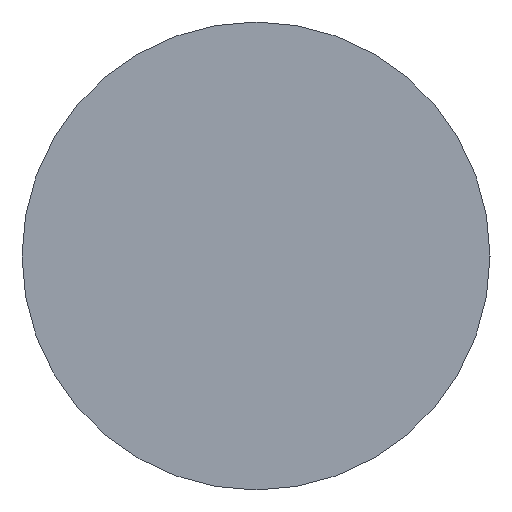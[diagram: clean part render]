
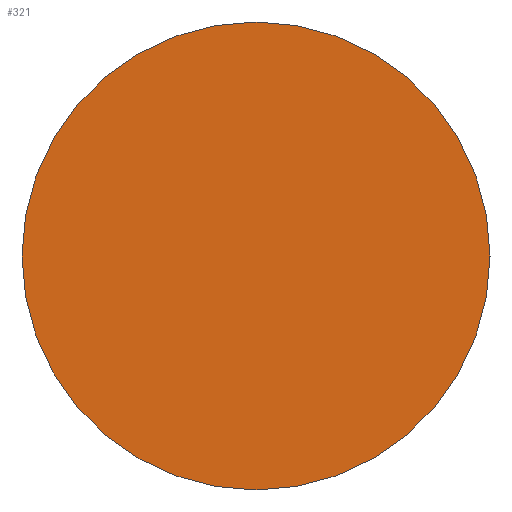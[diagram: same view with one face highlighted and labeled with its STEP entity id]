
A CAD part, left-side view. The second image highlights one B-rep face of the part: STEP entity #321.
In plain terms, the highlighted planar face has unit normal (-1, 0, 0).
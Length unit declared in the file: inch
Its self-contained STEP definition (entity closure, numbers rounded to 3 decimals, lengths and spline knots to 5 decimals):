
#41 = DIRECTION ( 'NONE',  ( -1., 0., 0. ) ) ;
#47 = DIRECTION ( 'NONE',  ( 0., 0., 1. ) ) ;
#66 = EDGE_CURVE ( 'NONE', #286, #300, #365, .T. ) ;
#79 = CARTESIAN_POINT ( 'NONE',  ( -4., 0., 0. ) ) ;
#110 = PLANE ( 'NONE',  #402 ) ;
#187 = CARTESIAN_POINT ( 'NONE',  ( -4., 0., 0. ) ) ;
#199 = EDGE_LOOP ( 'NONE', ( #404, #220 ) ) ;
#220 = ORIENTED_EDGE ( 'NONE', *, *, #66, .T. ) ;
#228 = CARTESIAN_POINT ( 'NONE',  ( -4., 0., -0.1875 ) ) ;
#240 = DIRECTION ( 'NONE',  ( 0., 0., 1. ) ) ;
#250 = DIRECTION ( 'NONE',  ( 1., 0., 0. ) ) ;
#275 = DIRECTION ( 'NONE',  ( -1., 0., 0. ) ) ;
#286 = VERTEX_POINT ( 'NONE', #228 ) ;
#300 = VERTEX_POINT ( 'NONE', #448 ) ;
#321 = ADVANCED_FACE ( 'NONE', ( #354 ), #110, .F. ) ;
#329 = CARTESIAN_POINT ( 'NONE',  ( -4., 0.1875, 0. ) ) ;
#346 = AXIS2_PLACEMENT_3D ( 'NONE', #79, #41, #47 ) ;
#354 = FACE_OUTER_BOUND ( 'NONE', #199, .T. ) ;
#365 = CIRCLE ( 'NONE', #346, 0.1875 ) ;
#386 = EDGE_CURVE ( 'NONE', #300, #286, #441, .T. ) ;
#393 = DIRECTION ( 'NONE',  ( 0., 0., -1. ) ) ;
#400 = AXIS2_PLACEMENT_3D ( 'NONE', #187, #275, #240 ) ;
#402 = AXIS2_PLACEMENT_3D ( 'NONE', #329, #250, #393 ) ;
#404 = ORIENTED_EDGE ( 'NONE', *, *, #386, .T. ) ;
#441 = CIRCLE ( 'NONE', #400, 0.1875 ) ;
#448 = CARTESIAN_POINT ( 'NONE',  ( -4., 0., 0.1875 ) ) ;
